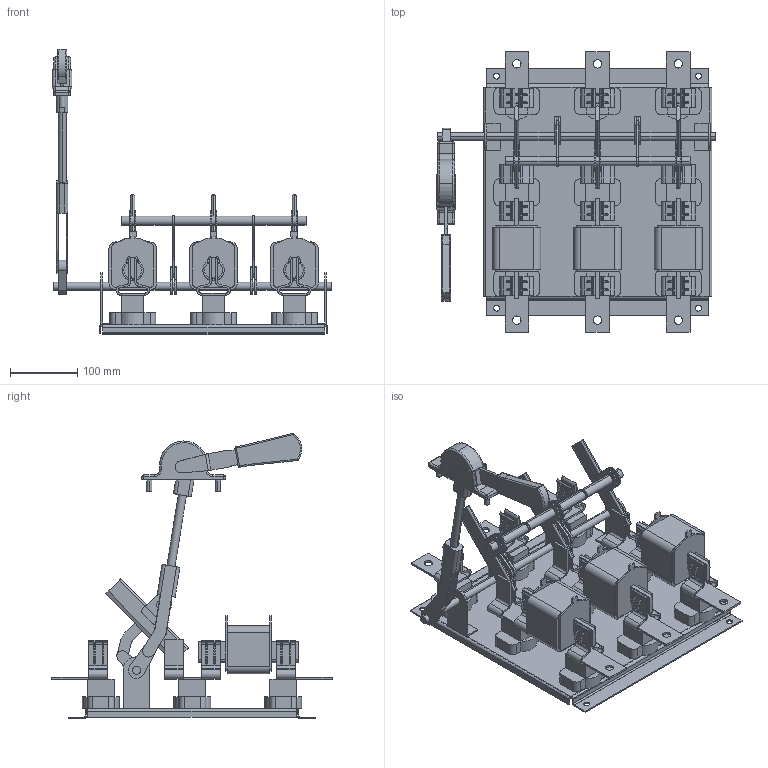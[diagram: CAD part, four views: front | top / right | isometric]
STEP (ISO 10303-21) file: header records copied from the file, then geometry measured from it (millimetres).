
FILE_DESCRIPTION (( 'STEP AP214' ), '1' );
FILE_NAME ('Ðàçúåäèíèòåëü ÐÏÑ-6Ë-630À-ÏÂ630À-ÓÕË3-ÊÝÀÇ.STEP', '2023-05-01T20:30:30', ( '' ), ( '' ), 'SwSTEP 2.0', 'SolidWorks 2018', '' );
FILE_SCHEMA (( 'AUTOMOTIVE_DESIGN' ));
Length unit declared in the file: millimetre
Products named in the file (1): Ðàçúåäèíèòåëü ÐÏÑ-6Ë-630À-ÏÂ630À-ÓÕË3-ÊÝÀÇ
Bounding box: 415 x 417 x 424.53 mm (x, y, z)
Volume: 2781687 mm3; surface area: 751064.6 mm2
Topology: 7 solids, 7 shells, 1366 faces, 3543 edges, 2241 vertices
Faces by surface type: plane 716, cylinder 426, torus 210, sphere 14
Entity records: 59244 total; most frequent: CARTESIAN_POINT 9905, DIRECTION 7348, ORIENTED_EDGE 7070, EDGE_CURVE 3535, AXIS2_PLACEMENT_3D 2608, VERTEX_POINT 2239, LINE 2132, VECTOR 2132
